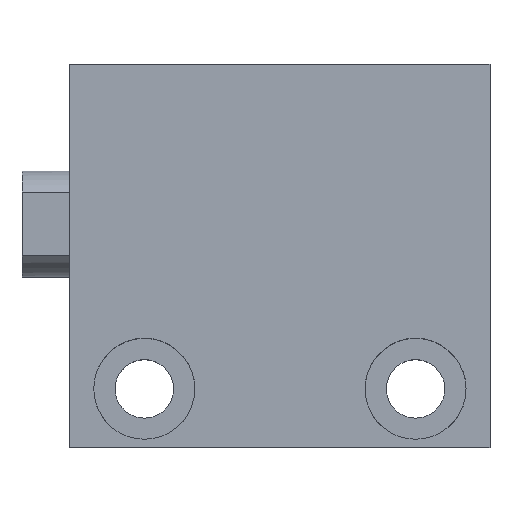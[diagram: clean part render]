
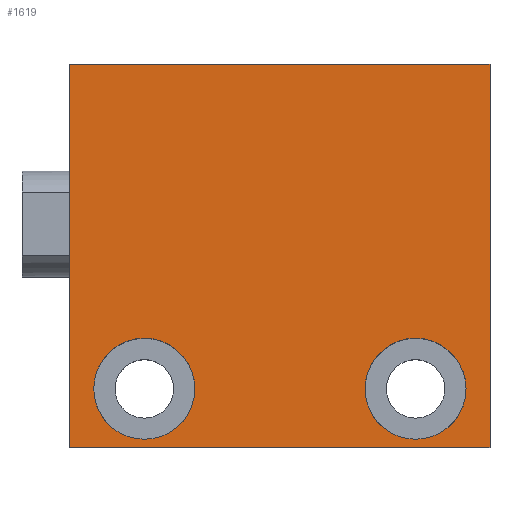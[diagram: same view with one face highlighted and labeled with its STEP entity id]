
A CAD part, top view. The second image highlights one B-rep face of the part: STEP entity #1619.
In plain terms, the highlighted planar face has unit normal (0, 0, 1).
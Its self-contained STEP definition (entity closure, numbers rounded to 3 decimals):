
#116 = CIRCLE ( 'NONE', #551, 4.75 ) ;
#128 = AXIS2_PLACEMENT_3D ( 'NONE', #2149, #900, #1427 ) ;
#155 = EDGE_CURVE ( 'NONE', #3148, #1043, #2289, .T. ) ;
#207 = CARTESIAN_POINT ( 'NONE',  ( 27.75, -15.5, 12.5 ) ) ;
#277 = LINE ( 'NONE', #2273, #2596 ) ;
#398 = EDGE_CURVE ( 'NONE', #1043, #3148, #2550, .T. ) ;
#405 = DIRECTION ( 'NONE',  ( 0., 1., 0. ) ) ;
#423 = CARTESIAN_POINT ( 'NONE',  ( 39.5, -21., 12.5 ) ) ;
#434 = ORIENTED_EDGE ( 'NONE', *, *, #1233, .T. ) ;
#523 = VERTEX_POINT ( 'NONE', #3005 ) ;
#551 = AXIS2_PLACEMENT_3D ( 'NONE', #1857, #2639, #2840 ) ;
#610 = CARTESIAN_POINT ( 'NONE',  ( 2.25, -15.5, 12.5 ) ) ;
#672 = ORIENTED_EDGE ( 'NONE', *, *, #398, .F. ) ;
#758 = ORIENTED_EDGE ( 'NONE', *, *, #2212, .T. ) ;
#760 = CARTESIAN_POINT ( 'NONE',  ( 39.5, 15., 12.5 ) ) ;
#812 = AXIS2_PLACEMENT_3D ( 'NONE', #1219, #1169, #3165 ) ;
#854 = ORIENTED_EDGE ( 'NONE', *, *, #2968, .F. ) ;
#892 = CARTESIAN_POINT ( 'NONE',  ( 39.5, 15., 12.5 ) ) ;
#900 = DIRECTION ( 'NONE',  ( 0., 0., 1. ) ) ;
#910 = VECTOR ( 'NONE', #952, 1000. ) ;
#952 = DIRECTION ( 'NONE',  ( -1., 0., 0. ) ) ;
#976 = AXIS2_PLACEMENT_3D ( 'NONE', #1004, #2009, #2997 ) ;
#1004 = CARTESIAN_POINT ( 'NONE',  ( 32.5, -15.5, 12.5 ) ) ;
#1043 = VERTEX_POINT ( 'NONE', #2486 ) ;
#1066 = FACE_BOUND ( 'NONE', #1861, .T. ) ;
#1161 = ORIENTED_EDGE ( 'NONE', *, *, #155, .F. ) ;
#1169 = DIRECTION ( 'NONE',  ( 0., 0., 1. ) ) ;
#1177 = VECTOR ( 'NONE', #1739, 1000. ) ;
#1219 = CARTESIAN_POINT ( 'NONE',  ( 7., -15.5, 12.5 ) ) ;
#1229 = VERTEX_POINT ( 'NONE', #892 ) ;
#1233 = EDGE_CURVE ( 'NONE', #2460, #1229, #2886, .T. ) ;
#1299 = DIRECTION ( 'NONE',  ( 0., 1., 0. ) ) ;
#1389 = CARTESIAN_POINT ( 'NONE',  ( 0., -21., 12.5 ) ) ;
#1427 = DIRECTION ( 'NONE',  ( 1., 0., 0. ) ) ;
#1559 = FACE_OUTER_BOUND ( 'NONE', #2964, .T. ) ;
#1579 = FACE_BOUND ( 'NONE', #1777, .T. ) ;
#1602 = EDGE_CURVE ( 'NONE', #2921, #523, #277, .T. ) ;
#1604 = CARTESIAN_POINT ( 'NONE',  ( 11.75, -15.5, 12.5 ) ) ;
#1619 = ADVANCED_FACE ( 'NONE', ( #1559, #1066, #1579 ), #2068, .T. ) ;
#1695 = VERTEX_POINT ( 'NONE', #1604 ) ;
#1739 = DIRECTION ( 'NONE',  ( -1., 0., 0. ) ) ;
#1777 = EDGE_LOOP ( 'NONE', ( #2375, #854 ) ) ;
#1857 = CARTESIAN_POINT ( 'NONE',  ( 7., -15.5, 12.5 ) ) ;
#1861 = EDGE_LOOP ( 'NONE', ( #672, #1161 ) ) ;
#1913 = VERTEX_POINT ( 'NONE', #610 ) ;
#1920 = CARTESIAN_POINT ( 'NONE',  ( 39.5, -21., 12.5 ) ) ;
#1977 = ORIENTED_EDGE ( 'NONE', *, *, #2604, .F. ) ;
#2009 = DIRECTION ( 'NONE',  ( 0., 0., 1. ) ) ;
#2068 = PLANE ( 'NONE',  #2389 ) ;
#2149 = CARTESIAN_POINT ( 'NONE',  ( 32.5, -15.5, 12.5 ) ) ;
#2201 = LINE ( 'NONE', #760, #910 ) ;
#2207 = LINE ( 'NONE', #423, #1177 ) ;
#2212 = EDGE_CURVE ( 'NONE', #1229, #523, #2201, .T. ) ;
#2273 = CARTESIAN_POINT ( 'NONE',  ( 0., -21., 12.5 ) ) ;
#2289 = CIRCLE ( 'NONE', #976, 4.75 ) ;
#2293 = VECTOR ( 'NONE', #405, 1000. ) ;
#2368 = CIRCLE ( 'NONE', #812, 4.75 ) ;
#2375 = ORIENTED_EDGE ( 'NONE', *, *, #2872, .F. ) ;
#2389 = AXIS2_PLACEMENT_3D ( 'NONE', #2549, #3055, #3029 ) ;
#2460 = VERTEX_POINT ( 'NONE', #2660 ) ;
#2486 = CARTESIAN_POINT ( 'NONE',  ( 37.25, -15.5, 12.5 ) ) ;
#2549 = CARTESIAN_POINT ( 'NONE',  ( 39.5, -21., 12.5 ) ) ;
#2550 = CIRCLE ( 'NONE', #128, 4.75 ) ;
#2596 = VECTOR ( 'NONE', #1299, 1000. ) ;
#2604 = EDGE_CURVE ( 'NONE', #2460, #2921, #2207, .T. ) ;
#2639 = DIRECTION ( 'NONE',  ( 0., 0., 1. ) ) ;
#2660 = CARTESIAN_POINT ( 'NONE',  ( 39.5, -21., 12.5 ) ) ;
#2840 = DIRECTION ( 'NONE',  ( 1., 0., 0. ) ) ;
#2872 = EDGE_CURVE ( 'NONE', #1695, #1913, #116, .T. ) ;
#2886 = LINE ( 'NONE', #1920, #2293 ) ;
#2921 = VERTEX_POINT ( 'NONE', #1389 ) ;
#2955 = ORIENTED_EDGE ( 'NONE', *, *, #1602, .F. ) ;
#2964 = EDGE_LOOP ( 'NONE', ( #2955, #1977, #434, #758 ) ) ;
#2968 = EDGE_CURVE ( 'NONE', #1913, #1695, #2368, .T. ) ;
#2997 = DIRECTION ( 'NONE',  ( 1., 0., 0. ) ) ;
#3005 = CARTESIAN_POINT ( 'NONE',  ( 0., 15., 12.5 ) ) ;
#3029 = DIRECTION ( 'NONE',  ( 0., 1., 0. ) ) ;
#3055 = DIRECTION ( 'NONE',  ( 0., 0., 1. ) ) ;
#3148 = VERTEX_POINT ( 'NONE', #207 ) ;
#3165 = DIRECTION ( 'NONE',  ( 1., 0., 0. ) ) ;
